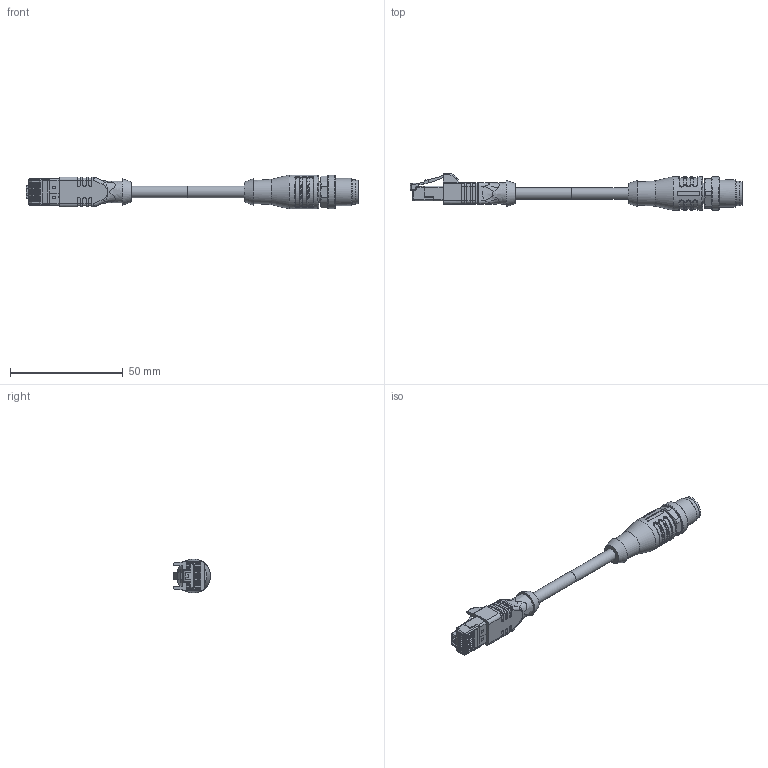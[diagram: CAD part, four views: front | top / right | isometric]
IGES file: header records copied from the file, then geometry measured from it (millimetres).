
Global section: file name: 153-13563_CI L4MG_RJ45G-GS-xm-PUR; native system: Autodesk Inventor 2018; preprocessor: unknown; author: ss; date: 20190321.102339; units: millimetre
Bounding box: 147.2 x 16.34 x 15 mm (x, y, z)
Volume: 11499.9 mm3; surface area: 6249.9 mm2
Topology: 2 solids, 2 shells, 888 faces, 2324 edges, 1456 vertices
Faces by surface type: bspline 888
